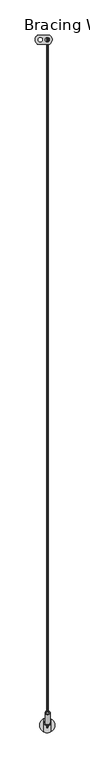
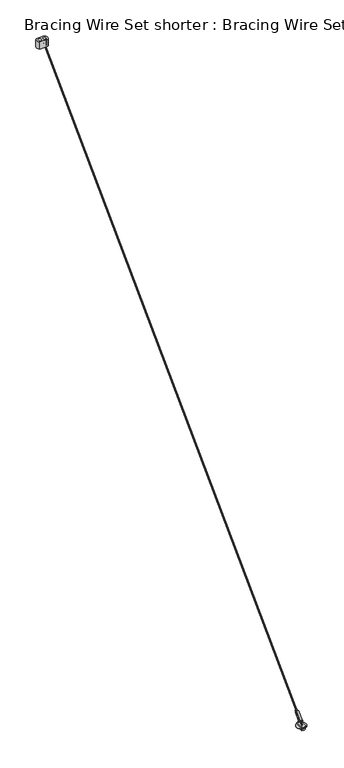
"""IFC4 building model written with IfcOpenShell, lengths in millimetres: proxy geometry, Bracing Wire Set shorter : Bracing Wire Set shorter."""

from ifc_helpers import new_model, si_unit, point, frame, frame_2d, origin, origin_with_axes, place, context, project, spatial, polyline, circle_curve, trimmed, segment, composite_curve, outline, extrude, source, transform, mapped, element, save


def bracing_wire_set_shorter_bracing_wire_set_shorter_cc787730(model_context):
    return source(origin(), model_context, "Body", "SweptSolid", [
        extrude(outline(composite_curve([segment(trimmed(circle_curve(frame_2d((-401.1605225, 973.2463962)), 7.9308891), [point((-396.2736485, 979.4927923))], [point((-396.2736485, 967.0))], False, "CARTESIAN"), True, "CONTINUOUS"), segment(polyline([(-396.2736485, 967.0), (-414.2097995, 967.0)]), True, "CONTINUOUS"), segment(trimmed(circle_curve(frame_2d((-409.3201364, 973.2463962)), 7.9326081), [point((-414.2097995, 967.0))], [point((-414.2097995, 979.4927923))], False, "CARTESIAN"), True, "CONTINUOUS"), segment(polyline([(-414.2097995, 979.4927923), (-396.2736485, 979.4927923)]), True, "CONTINUOUS")], self_intersect=False), holes=[composite_curve([segment(trimmed(circle_curve(frame_2d((-400.0, 973.1527592)), 3.0), [point((-403.0, 973.1527592))], [point((-397.0, 973.1527592))], True, "CARTESIAN"), True, "CONTINUOUS"), segment(trimmed(circle_curve(frame_2d((-400.0, 973.1527592)), 3.0), [point((-397.0, 973.1527592))], [point((-403.0, 973.1527592))], True, "CARTESIAN"), True, "CONTINUOUS")], self_intersect=False), composite_curve([segment(trimmed(circle_curve(frame_2d((-410.0, 973.1527592)), 3.0), [point((-413.0, 973.1527592))], [point((-407.0, 973.1527592))], True, "CARTESIAN"), True, "CONTINUOUS"), segment(trimmed(circle_curve(frame_2d((-410.0, 973.1527592)), 3.0), [point((-407.0, 973.1527592))], [point((-413.0, 973.1527592))], True, "CARTESIAN"), True, "CONTINUOUS")], self_intersect=False)]), frame((0.0, 0.0, 983.5930877), z_axis=(0.0, 0.0, 1.0), x_axis=(1.0, 0.0, 0.0)), (0.0, 0.0, 1.0), 16.4069123),
        extrude(outline(polyline([(0.0, 0.0), (0.5945736, -0.5945735), (0.5945735, -1.4354274), (0.0, -2.0300009), (-0.840854, -2.0300009), (-1.4354274, -1.4354274), (-1.4354274, -0.5945735), (-0.8408539, 0.0), (0.0, 0.0)])), frame((-399.2231523, -3.3746727, 3.2733283), z_axis=(0.0, 0.7044287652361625, 0.7097746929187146), x_axis=(-0.38268343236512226, -0.6557463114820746, 0.6508073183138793)), (0.0, 0.0, 1.0), 1391.9361594),
        extrude(outline(composite_curve([segment(polyline([(-404.241724, -8.2907238), (-404.241724, 8.4779978)]), True, "CONTINUOUS"), segment(trimmed(circle_curve(frame_2d((-400.241724, 0.8176295)), 8.6418309), [point((-404.241724, 8.4779978))], [point((-396.241724, 8.4779978))], False, "CARTESIAN"), True, "CONTINUOUS"), segment(polyline([(-396.241724, 8.4779978), (-396.241724, -8.2907238)]), True, "CONTINUOUS"), segment(trimmed(circle_curve(frame_2d((-400.241724, -0.6303556)), 8.6418309), [point((-396.241724, -8.2907238))], [point((-404.241724, -8.2907238))], False, "CARTESIAN"), True, "CONTINUOUS")], self_intersect=False)), frame((0.0, 0.0, -4.3497354), z_axis=(0.0, 0.0, 1.0), x_axis=(1.0, 0.0, 0.0)), (0.0, 0.0, 1.0), 4.3497354),
        extrude(outline(composite_curve([segment(trimmed(circle_curve(frame_2d((0.0, -2.0419803)), 2.0419802), [point((0.0, -4.0839605))], [point((0.0, 0.0))], False, "CARTESIAN"), True, "CONTINUOUS"), segment(trimmed(circle_curve(frame_2d((0.0, -2.0419803)), 2.0419802), [point((0.0, 0.0))], [point((0.0, -4.0839605))], False, "CARTESIAN"), True, "CONTINUOUS")], self_intersect=False)), frame((-397.8517245, 17.7445322, 23.0490253), z_axis=(0.0, 0.7044287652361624, 0.7097746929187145), x_axis=(0.0, -0.7097746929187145, 0.7044287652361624)), (0.0, 0.0, 1.0), 3.0),
        extrude(outline(composite_curve([segment(trimmed(circle_curve(frame_2d((0.0, -3.526017)), 3.5260169), [point((0.0, -7.0520339))], [point((0.0, 0.0))], False, "CARTESIAN"), True, "CONTINUOUS"), segment(trimmed(circle_curve(frame_2d((0.0, -3.526017)), 3.5260169), [point((0.0, 0.0))], [point((0.0, -7.0520339))], False, "CARTESIAN"), True, "CONTINUOUS")], self_intersect=False)), frame((-396.1588422, 3.8220268, 8.6887123), z_axis=(0.0, 0.7044287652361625, 0.7097746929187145), x_axis=(0.0, -0.7097746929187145, 0.7044287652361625)), (0.0, 0.0, 1.0), 20.0),
        extrude(outline(composite_curve([segment(trimmed(circle_curve(frame_2d((0.0, -4.6190623)), 4.6190623), [point((0.0, -9.2381245))], [point((0.0, 0.0))], False, "CARTESIAN"), True, "CONTINUOUS"), segment(trimmed(circle_curve(frame_2d((0.0, -4.6190623)), 4.6190623), [point((0.0, 0.0))], [point((0.0, -9.2381245))], False, "CARTESIAN"), True, "CONTINUOUS")], self_intersect=False)), frame((-395.2117226, 3.0496708, 8.0463532), z_axis=(0.0, 0.7044287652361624, 0.7097746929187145), x_axis=(0.0, -0.7097746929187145, 0.7044287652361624)), (0.0, 0.0, 1.0), 1.0),
        extrude(outline(composite_curve([segment(trimmed(circle_curve(frame_2d((-400.2064846, 0.1848983)), 10.6943727), [point((-410.9008572, 0.1848983))], [point((-389.5121119, 0.1848983))], False, "CARTESIAN"), True, "CONTINUOUS"), segment(trimmed(circle_curve(frame_2d((-400.2064846, 0.1848983)), 10.6943727), [point((-389.5121119, 0.1848983))], [point((-410.9008572, 0.1848983))], False, "CARTESIAN"), True, "CONTINUOUS")], self_intersect=False)), origin_with_axes(), (0.0, 0.0, 1.0), 1.0),
        extrude(outline(composite_curve([segment(trimmed(circle_curve(frame_2d((-400.241724, 0.8176295)), 9.6418309), [point((-405.241724, 9.0617125))], [point((-395.241724, 9.0617125))], False, "CARTESIAN"), True, "CONTINUOUS"), segment(polyline([(-395.241724, 9.0617125), (-395.241724, -8.8744385)]), True, "CONTINUOUS"), segment(trimmed(circle_curve(frame_2d((-400.241724, -0.6303556)), 9.6418309), [point((-395.241724, -8.8744385))], [point((-405.241724, -8.8744385))], False, "CARTESIAN"), True, "CONTINUOUS"), segment(polyline([(-405.241724, -8.8744385), (-405.241724, 9.0617125)]), True, "CONTINUOUS")], self_intersect=False)), frame((0.0, 0.0, 1.0), z_axis=(0.0, 0.0, 1.0), x_axis=(1.0, 0.0, 0.0)), (0.0, 0.0, 1.0), 2.5),
    ])


if __name__ == "__main__":
    model = new_model("IFC4")
    model_context = context("Model", 3, world=origin())
    ifc_project = project(units=[si_unit("LENGTHUNIT", "METRE", prefix="MILLI")], contexts=[model_context])
    site = spatial("IfcSite", under=ifc_project)
    building = spatial("IfcBuilding", under=site)
    placement = place(None, origin())
    bracing_wire_set_shorter_bracing_wire_set_shorter_shape = bracing_wire_set_shorter_bracing_wire_set_shorter_cc787730(model_context)
    element("IfcBuildingElementProxy", 1, Name="Bracing Wire Set shorter : Bracing Wire Set shorter", ObjectType="Bracing Wire Set shorter : Bracing Wire Set shorter", at=placement, inside=building, context=model_context, shape_type="MappedRepresentation", body=[
        mapped(bracing_wire_set_shorter_bracing_wire_set_shorter_shape, transform((0.0, 0.0, 0.0), x_axis=(1.0, 0.0, 0.0), y_axis=(0.0, 1.0, 0.0), z_axis=(0.0, 0.0, 1.0))),
    ])
    save(model, "model.ifc")
